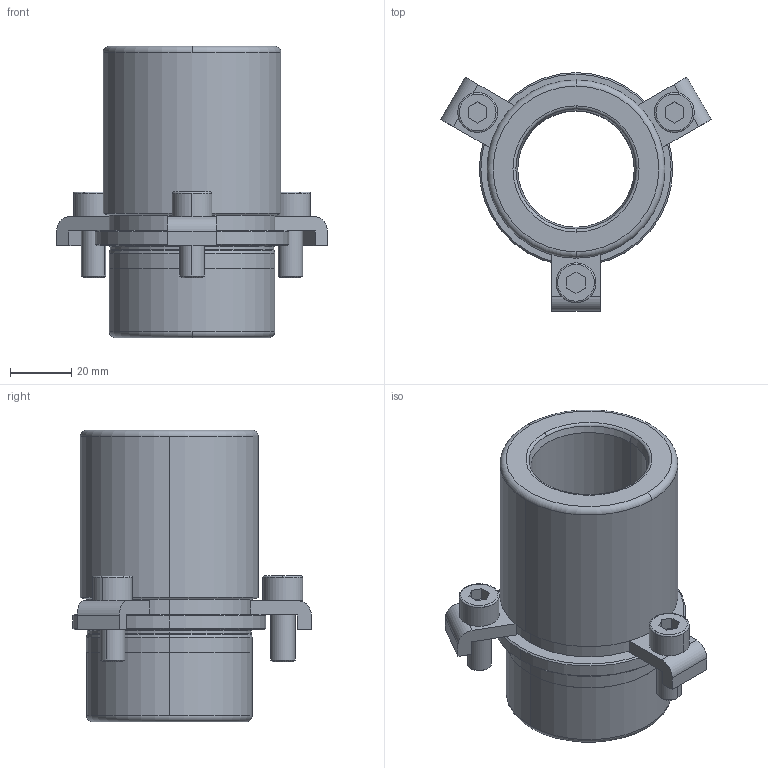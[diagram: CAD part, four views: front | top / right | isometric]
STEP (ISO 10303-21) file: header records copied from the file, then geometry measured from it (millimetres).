
FILE_DESCRIPTION((''),'2;1');
FILE_NAME('B40_030_065.stp','2009-01-05T16:27:39',(''),(''),'Mechanical Desktop 2009','Mechanical Desktop 2009',', , ');
FILE_SCHEMA(('CONFIG_CONTROL_DESIGN'));
Length unit declared in the file: millimetre
Products named in the file (2): Product; blmdl1
Assembly tree (1 placements, depth 2):
  Product
    blmdl1
Bounding box: 88.14 x 77.8 x 95 mm (x, y, z)
Volume: 142462.2 mm3; surface area: 39004.6 mm2
Topology: 7 solids, 7 shells, 147 faces, 362 edges, 238 vertices
Faces by surface type: plane 62, cylinder 41, cone 20, torus 14, bspline 10
Entity records: 4933 total; most frequent: CARTESIAN_POINT 1189, DIRECTION 824, ORIENTED_EDGE 724, EDGE_CURVE 362, AXIS2_PLACEMENT_3D 323, VERTEX_POINT 238, CIRCLE 184, VECTOR 178
